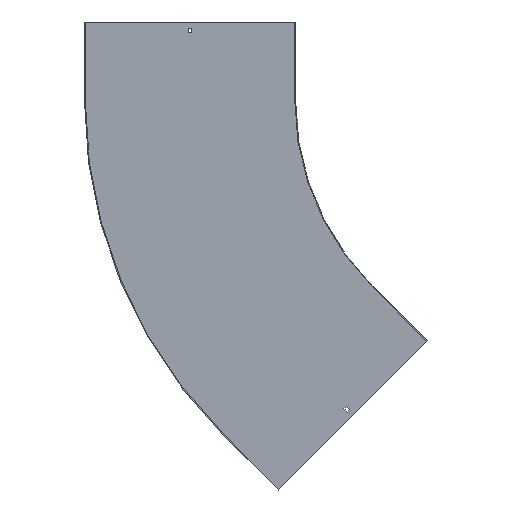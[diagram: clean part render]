
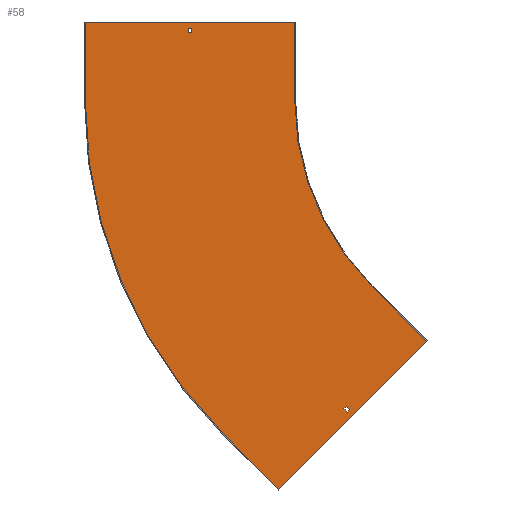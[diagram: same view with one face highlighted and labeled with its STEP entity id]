
A CAD part, front view. The second image highlights one B-rep face of the part: STEP entity #58.
In plain terms, the highlighted planar face has unit normal (0, -1, 0).
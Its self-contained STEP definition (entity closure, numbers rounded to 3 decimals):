
#3 = LINE ( 'NONE', #266, #74 ) ;
#7 = DIRECTION ( 'NONE',  ( 0., 0., -1. ) ) ;
#10 = EDGE_LOOP ( 'NONE', ( #242, #287, #108, #487 ) ) ;
#42 = VERTEX_POINT ( 'NONE', #514 ) ;
#44 = VERTEX_POINT ( 'NONE', #253 ) ;
#45 = FACE_BOUND ( 'NONE', #856, .T. ) ;
#46 = VERTEX_POINT ( 'NONE', #397 ) ;
#47 = CIRCLE ( 'NONE', #670, 900. ) ;
#52 = DIRECTION ( 'NONE',  ( 1., 0., 0. ) ) ;
#58 = ADVANCED_FACE ( 'NONE', ( #45, #777, #448 ), #655, .T. ) ;
#64 = EDGE_CURVE ( 'NONE', #293, #466, #788, .T. ) ;
#67 = ORIENTED_EDGE ( 'NONE', *, *, #322, .F. ) ;
#68 = DIRECTION ( 'NONE',  ( 0.707, 0., -0.707 ) ) ;
#74 = VECTOR ( 'NONE', #519, 1000. ) ;
#76 = EDGE_CURVE ( 'NONE', #416, #44, #319, .T. ) ;
#77 = CARTESIAN_POINT ( 'NONE',  ( -247.487, -1.5, -459.619 ) ) ;
#78 = VERTEX_POINT ( 'NONE', #393 ) ;
#82 = VECTOR ( 'NONE', #849, 1000. ) ;
#85 = LINE ( 'NONE', #615, #155 ) ;
#88 = VECTOR ( 'NONE', #859, 1000. ) ;
#97 = EDGE_CURVE ( 'NONE', #741, #78, #232, .T. ) ;
#99 = ORIENTED_EDGE ( 'NONE', *, *, #97, .F. ) ;
#105 = VECTOR ( 'NONE', #635, 1000. ) ;
#108 = ORIENTED_EDGE ( 'NONE', *, *, #410, .T. ) ;
#109 = EDGE_CURVE ( 'NONE', #44, #415, #829, .T. ) ;
#113 = DIRECTION ( 'NONE',  ( 0., -1., 0. ) ) ;
#114 = DIRECTION ( 'NONE',  ( 0., 0., -1. ) ) ;
#117 = LINE ( 'NONE', #181, #227 ) ;
#122 = EDGE_LOOP ( 'NONE', ( #454, #367, #634, #614, #391, #628, #810, #67 ) ) ;
#134 = EDGE_CURVE ( 'NONE', #415, #766, #47, .T. ) ;
#155 = VECTOR ( 'NONE', #419, 1000. ) ;
#161 = CARTESIAN_POINT ( 'NONE',  ( -530.33, -1.5, -742.462 ) ) ;
#162 = CARTESIAN_POINT ( 'NONE',  ( -497.273, -1.5, -497.273 ) ) ;
#181 = CARTESIAN_POINT ( 'NONE',  ( 97.581, -1.5, -97.581 ) ) ;
#186 = VECTOR ( 'NONE', #52, 1000. ) ;
#190 = LINE ( 'NONE', #455, #698 ) ;
#222 = EDGE_CURVE ( 'NONE', #78, #489, #117, .T. ) ;
#223 = CARTESIAN_POINT ( 'NONE',  ( -703.25, -1.5, 129. ) ) ;
#227 = VECTOR ( 'NONE', #781, 1000. ) ;
#228 = VERTEX_POINT ( 'NONE', #239 ) ;
#232 = LINE ( 'NONE', #162, #105 ) ;
#239 = CARTESIAN_POINT ( 'NONE',  ( -500., -1.5, 0. ) ) ;
#242 = ORIENTED_EDGE ( 'NONE', *, *, #400, .T. ) ;
#253 = CARTESIAN_POINT ( 'NONE',  ( -530.33, -1.5, -742.462 ) ) ;
#266 = CARTESIAN_POINT ( 'NONE',  ( 0., -1.5, 138. ) ) ;
#273 = CARTESIAN_POINT ( 'NONE',  ( -636.396, -1.5, -636.396 ) ) ;
#287 = ORIENTED_EDGE ( 'NONE', *, *, #536, .T. ) ;
#290 = CIRCLE ( 'NONE', #772, 500. ) ;
#293 = VERTEX_POINT ( 'NONE', #449 ) ;
#301 = DIRECTION ( 'NONE',  ( 0., 1., 0. ) ) ;
#319 = LINE ( 'NONE', #589, #88 ) ;
#322 = EDGE_CURVE ( 'NONE', #466, #228, #820, .T. ) ;
#324 = DIRECTION ( 'NONE',  ( -1., 0., 0. ) ) ;
#334 = LINE ( 'NONE', #793, #82 ) ;
#343 = VERTEX_POINT ( 'NONE', #778 ) ;
#364 = DIRECTION ( 'NONE',  ( -0.707, 0., 0.707 ) ) ;
#365 = DIRECTION ( 'NONE',  ( 0., -1., 0. ) ) ;
#367 = ORIENTED_EDGE ( 'NONE', *, *, #439, .F. ) ;
#391 = ORIENTED_EDGE ( 'NONE', *, *, #76, .F. ) ;
#393 = CARTESIAN_POINT ( 'NONE',  ( -399.692, -1.5, -594.854 ) ) ;
#394 = LINE ( 'NONE', #660, #857 ) ;
#397 = CARTESIAN_POINT ( 'NONE',  ( -401.46, -1.5, -583.893 ) ) ;
#400 = EDGE_CURVE ( 'NONE', #343, #611, #3, .T. ) ;
#410 = EDGE_CURVE ( 'NONE', #702, #512, #460, .T. ) ;
#415 = VERTEX_POINT ( 'NONE', #273 ) ;
#416 = VERTEX_POINT ( 'NONE', #77 ) ;
#418 = CARTESIAN_POINT ( 'NONE',  ( -492.677, -1.5, -492.677 ) ) ;
#419 = DIRECTION ( 'NONE',  ( -0.707, 0., -0.707 ) ) ;
#429 = LINE ( 'NONE', #418, #478 ) ;
#438 = DIRECTION ( 'NONE',  ( 0., 0., -1. ) ) ;
#439 = EDGE_CURVE ( 'NONE', #766, #293, #394, .T. ) ;
#443 = ORIENTED_EDGE ( 'NONE', *, *, #222, .F. ) ;
#448 = FACE_BOUND ( 'NONE', #10, .T. ) ;
#449 = CARTESIAN_POINT ( 'NONE',  ( -900., -1.5, 150. ) ) ;
#454 = ORIENTED_EDGE ( 'NONE', *, *, #64, .F. ) ;
#455 = CARTESIAN_POINT ( 'NONE',  ( -353.553, -1.5, -353.553 ) ) ;
#460 = LINE ( 'NONE', #664, #808 ) ;
#466 = VERTEX_POINT ( 'NONE', #608 ) ;
#468 = CARTESIAN_POINT ( 'NONE',  ( -696.75, -1.5, 129. ) ) ;
#474 = DIRECTION ( 'NONE',  ( 0., 0., -1. ) ) ;
#476 = CARTESIAN_POINT ( 'NONE',  ( -900., -1.5, 0. ) ) ;
#477 = CARTESIAN_POINT ( 'NONE',  ( -395.096, -1.5, -590.257 ) ) ;
#478 = VECTOR ( 'NONE', #695, 1000. ) ;
#482 = EDGE_CURVE ( 'NONE', #489, #46, #429, .T. ) ;
#487 = ORIENTED_EDGE ( 'NONE', *, *, #657, .T. ) ;
#489 = VERTEX_POINT ( 'NONE', #477 ) ;
#503 = EDGE_CURVE ( 'NONE', #228, #42, #290, .T. ) ;
#506 = CARTESIAN_POINT ( 'NONE',  ( -696.75, -1.5, 138. ) ) ;
#508 = CARTESIAN_POINT ( 'NONE',  ( 0., -1.5, 0. ) ) ;
#512 = VERTEX_POINT ( 'NONE', #223 ) ;
#514 = CARTESIAN_POINT ( 'NONE',  ( -353.553, -1.5, -353.553 ) ) ;
#519 = DIRECTION ( 'NONE',  ( 1., 0., 0. ) ) ;
#522 = VECTOR ( 'NONE', #474, 1000. ) ;
#536 = EDGE_CURVE ( 'NONE', #611, #702, #816, .T. ) ;
#547 = CARTESIAN_POINT ( 'NONE',  ( -406.056, -1.5, -588.49 ) ) ;
#565 = ORIENTED_EDGE ( 'NONE', *, *, #482, .F. ) ;
#589 = CARTESIAN_POINT ( 'NONE',  ( -246.427, -1.5, -458.559 ) ) ;
#605 = DIRECTION ( 'NONE',  ( 0., 0., 1. ) ) ;
#608 = CARTESIAN_POINT ( 'NONE',  ( -500., -1.5, 150. ) ) ;
#611 = VERTEX_POINT ( 'NONE', #506 ) ;
#614 = ORIENTED_EDGE ( 'NONE', *, *, #109, .F. ) ;
#615 = CARTESIAN_POINT ( 'NONE',  ( 91.217, -1.5, -91.217 ) ) ;
#628 = ORIENTED_EDGE ( 'NONE', *, *, #711, .F. ) ;
#632 = VECTOR ( 'NONE', #364, 1000. ) ;
#634 = ORIENTED_EDGE ( 'NONE', *, *, #134, .F. ) ;
#635 = DIRECTION ( 'NONE',  ( 0.707, 0., -0.707 ) ) ;
#655 = PLANE ( 'NONE',  #727 ) ;
#657 = EDGE_CURVE ( 'NONE', #512, #343, #334, .T. ) ;
#660 = CARTESIAN_POINT ( 'NONE',  ( -900., -1.5, 0. ) ) ;
#664 = CARTESIAN_POINT ( 'NONE',  ( 0., -1.5, 129. ) ) ;
#670 = AXIS2_PLACEMENT_3D ( 'NONE', #508, #301, #438 ) ;
#682 = CARTESIAN_POINT ( 'NONE',  ( 0., -1.5, 0. ) ) ;
#695 = DIRECTION ( 'NONE',  ( -0.707, 0., 0.707 ) ) ;
#698 = VECTOR ( 'NONE', #68, 1000. ) ;
#702 = VERTEX_POINT ( 'NONE', #468 ) ;
#711 = EDGE_CURVE ( 'NONE', #42, #416, #190, .T. ) ;
#712 = CARTESIAN_POINT ( 'NONE',  ( 0., -1.5, 0. ) ) ;
#722 = CARTESIAN_POINT ( 'NONE',  ( -901.5, -1.5, 150. ) ) ;
#727 = AXIS2_PLACEMENT_3D ( 'NONE', #712, #113, #782 ) ;
#741 = VERTEX_POINT ( 'NONE', #547 ) ;
#766 = VERTEX_POINT ( 'NONE', #476 ) ;
#772 = AXIS2_PLACEMENT_3D ( 'NONE', #682, #365, #7 ) ;
#777 = FACE_OUTER_BOUND ( 'NONE', #122, .T. ) ;
#778 = CARTESIAN_POINT ( 'NONE',  ( -703.25, -1.5, 138. ) ) ;
#781 = DIRECTION ( 'NONE',  ( 0.707, 0., 0.707 ) ) ;
#782 = DIRECTION ( 'NONE',  ( 0., 0., -1. ) ) ;
#784 = VECTOR ( 'NONE', #114, 1000. ) ;
#788 = LINE ( 'NONE', #722, #186 ) ;
#793 = CARTESIAN_POINT ( 'NONE',  ( -703.25, -1.5, 0. ) ) ;
#803 = CARTESIAN_POINT ( 'NONE',  ( -696.75, -1.5, 0. ) ) ;
#808 = VECTOR ( 'NONE', #324, 1000. ) ;
#810 = ORIENTED_EDGE ( 'NONE', *, *, #503, .F. ) ;
#814 = ORIENTED_EDGE ( 'NONE', *, *, #847, .F. ) ;
#816 = LINE ( 'NONE', #803, #522 ) ;
#820 = LINE ( 'NONE', #828, #784 ) ;
#828 = CARTESIAN_POINT ( 'NONE',  ( -500., -1.5, 150. ) ) ;
#829 = LINE ( 'NONE', #161, #632 ) ;
#847 = EDGE_CURVE ( 'NONE', #46, #741, #85, .T. ) ;
#849 = DIRECTION ( 'NONE',  ( 0., 0., 1. ) ) ;
#856 = EDGE_LOOP ( 'NONE', ( #565, #443, #99, #814 ) ) ;
#857 = VECTOR ( 'NONE', #605, 1000. ) ;
#859 = DIRECTION ( 'NONE',  ( -0.707, 0., -0.707 ) ) ;
